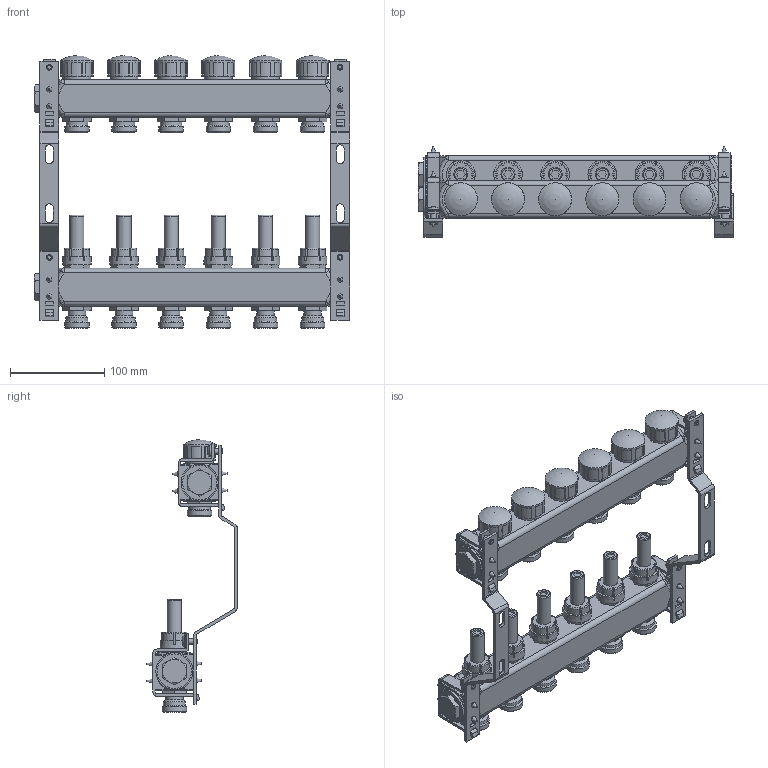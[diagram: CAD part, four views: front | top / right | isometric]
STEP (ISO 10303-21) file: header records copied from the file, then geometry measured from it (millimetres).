
FILE_DESCRIPTION(('STEP AP203'), '1');
FILE_NAME('VTc.584.EMNX.0606', '', ('UNSPECIFIED'), ('UNSPECIFIED'), 'C3D Converter', 'C3D Toolkit', '');
FILE_SCHEMA(('CONFIG_CONTROL_DESIGN'));
Length unit declared in the file: millimetre
Bounding box: 334.2 x 95.7 x 289.2 mm (x, y, z)
Volume: 1420023.5 mm3; surface area: 218757.3 mm2
Topology: 1 solids, 1 shells, 1372 faces, 3782 edges, 2446 vertices
Faces by surface type: plane 840, cylinder 310, torus 102, cone 78, bspline 36, sphere 6
Full cylindrical faces by diameter (mm): 5.4 x16, 6 x8, 12 x4, 15 x6, 18.4 x6, 22.9 x6, 23.5 x6, 25.9 x6, 26 x6, 29.5 x6, 34.9 x6, 35.3 x2, 36.5 x2, 39.3 x4
Entity records: 55047 total; most frequent: CARTESIAN_POINT 20970, ORIENTED_EDGE 7172, DIRECTION 6786, EDGE_CURVE 3586, VERTEX_POINT 2436, AXIS2_PLACEMENT_3D 2335, LINE 2116, VECTOR 2116
